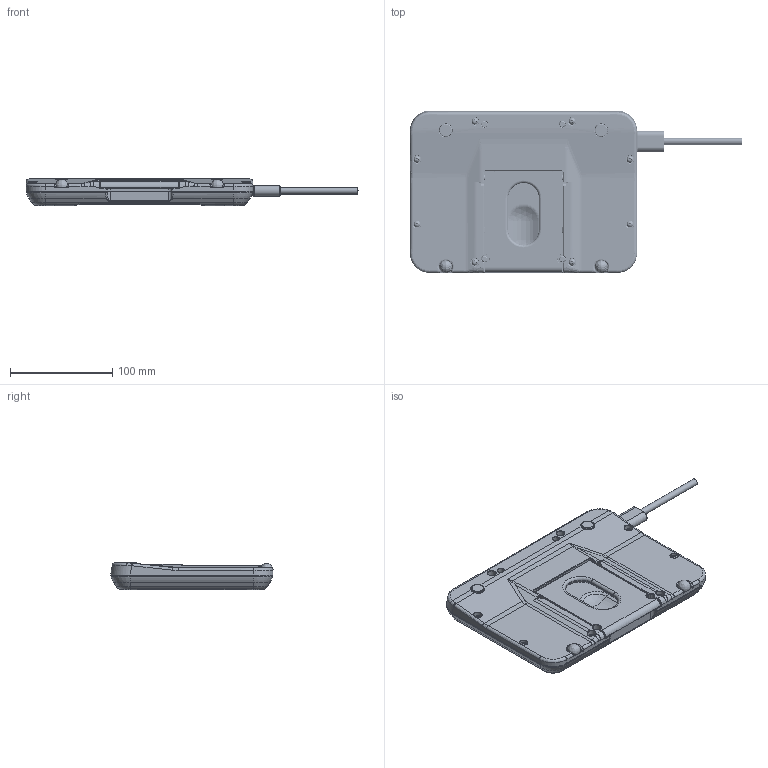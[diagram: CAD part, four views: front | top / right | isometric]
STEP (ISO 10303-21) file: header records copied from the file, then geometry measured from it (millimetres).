
FILE_DESCRIPTION (( 'STEP AP203' ), '1' );
FILE_NAME ('301329.STEP', '2025-10-22T21:37:00', ( '' ), ( '' ), 'SwSTEP 2.0', 'SolidWorks 2023', '' );
FILE_SCHEMA (( 'CONFIG_CONTROL_DESIGN' ));
Products named in the file (1): 301329
Bounding box: 325.17 x 159.1 x 27.21 mm (x, y, z)
Surface area: 328383.9 mm2 (no closed solid volume)
Topology: 0 solids, 48 shells, 6014 faces, 16188 edges, 10388 vertices
Faces by surface type: plane 3315, cylinder 1030, bspline 733, torus 623, cone 291, sphere 22
Full cylindrical faces by diameter (mm): 1.3 x4, 1.5 x2, 2.87 x12, 3.175 x4, 3.683 x8, 3.81 x5, 5.461 x2, 5.588 x4, 6.35 x5, 6.487 x4, 6.858 x4, 7.938 x8, 8.573 x4, 9.525 x1, 9.652 x4, 13.208 x2
Entity records: 230506 total; most frequent: CARTESIAN_POINT 90545, ORIENTED_EDGE 31794, DIRECTION 25000, EDGE_CURVE 15956, VERTEX_POINT 10332, LINE 8376, VECTOR 8376, AXIS2_PLACEMENT_3D 8312
